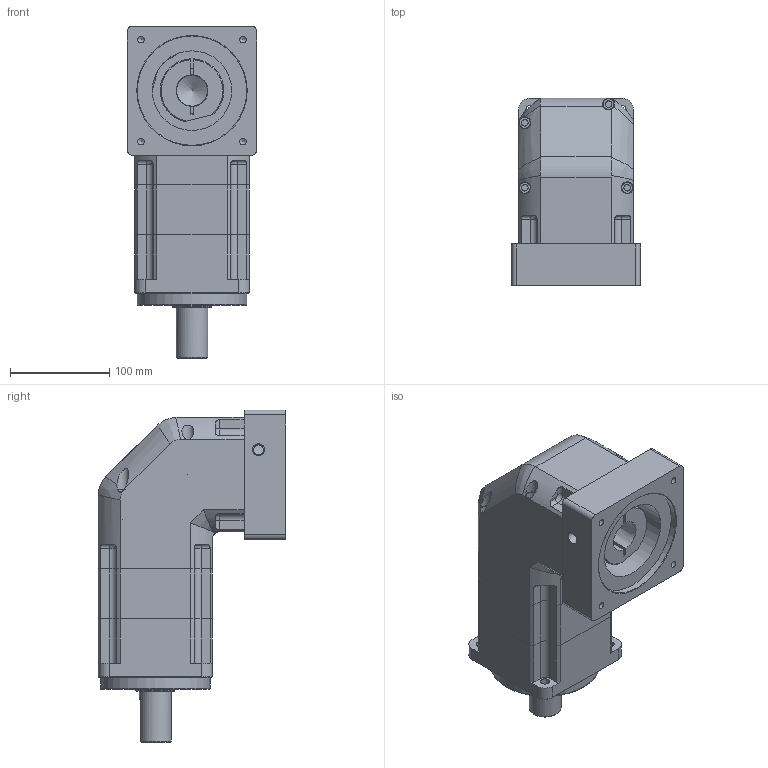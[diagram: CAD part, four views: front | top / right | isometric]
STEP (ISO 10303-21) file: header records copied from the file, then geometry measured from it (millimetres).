
FILE_DESCRIPTION((''),'2;1');
FILE_NAME('C:\Documents and Settings\nagyu\바탕 화면\유성감속기 3D\SPL115\SPL115025~100KA.stp','2009-10-27T09:43:54',('nagyu'),(''),'Autodesk Inventor 2010','Autodesk Inventor 2010','');
FILE_SCHEMA(('AUTOMOTIVE_DESIGN { 1 0 10303 214 1 1 1 1 }'));
Length unit declared in the file: millimetre
Products named in the file (5): SPL115 2단; SPI115 OUT; 115각 CARRIER CASE; SPL115 GEARCASE; 115각 INPUT ADAPTER FLANGE
Assembly tree (4 placements, depth 2):
  SPL115 2단
    SPI115 OUT
    115각 CARRIER CASE
    SPL115 GEARCASE
    115각 INPUT ADAPTER FLANGE
Bounding box: 130 x 188.8 x 333.8 mm (x, y, z)
Volume: 3658377 mm3; surface area: 305296.1 mm2
Topology: 5 solids, 5 shells, 254 faces, 669 edges, 437 vertices
Faces by surface type: plane 105, cylinder 96, bspline 39, cone 11, torus 3
Full cylindrical faces by diameter (mm): 6.6 x4, 11 x4, 32 x1, 39.5 x1, 45 x1, 72 x1, 90 x2, 92 x1, 100 x1, 110 x1
Entity records: 8887 total; most frequent: CARTESIAN_POINT 2733, DIRECTION 1208, ORIENTED_EDGE 1200, EDGE_CURVE 600, AXIS2_PLACEMENT_3D 455, VERTEX_POINT 413, EDGE_LOOP 335, VECTOR 298
